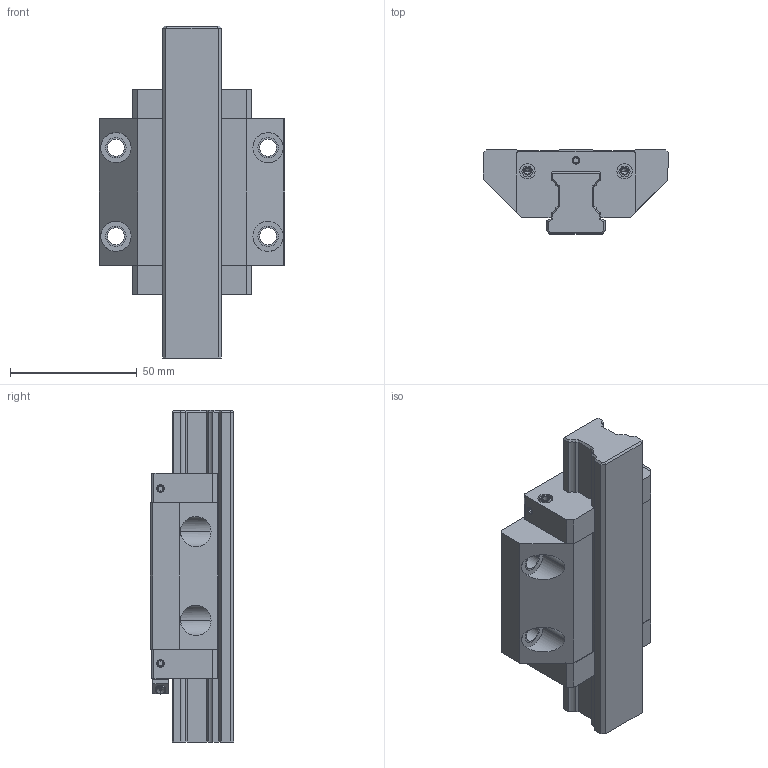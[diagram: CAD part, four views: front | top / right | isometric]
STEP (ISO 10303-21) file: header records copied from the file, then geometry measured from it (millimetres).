
FILE_DESCRIPTION((''),'2;1');
FILE_NAME('KWC_025_FNN_CS__ASM','2021-10-14T07:46:36',('ac91sw'),(''),'CREO PARAMETRIC BY PTC INC, 2020044','CREO PARAMETRIC BY PTC INC, 2020044','');
FILE_SCHEMA(('AUTOMOTIVE_DESIGN { 1 0 10303 214 1 1 1 1 }'));
Length unit declared in the file: millimetre
Products named in the file (7): KWC_025_FNN_CS__SKEL; R169320131; R169420002_Z; R343708901_Z; KWC_025_FNN_CS__PSF; R341700409_Z; KWC_025_FNN_CS__ASM
Assembly tree (11 placements, depth 2):
  KWC_025_FNN_CS__ASM
    KWC_025_FNN_CS__SKEL
    R169320131
    R169420002_Z  x2
    R343708901_Z  x5
    KWC_025_FNN_CS__PSF
    R341700409_Z
Bounding box: 73 x 33 x 131 mm (x, y, z)
Volume: 140192.5 mm3; surface area: 44991.3 mm2
Topology: 10 solids, 23 shells, 401 faces, 993 edges, 628 vertices
Faces by surface type: plane 221, cylinder 124, cone 56
Entity records: 14102 total; most frequent: CARTESIAN_POINT 1709, DIRECTION 1349, ORIENTED_EDGE 1238, PROPERTY_DEFINITION 818, REPRESENTATION 810, PROPERTY_DEFINITION_REPRESENTATION 810, DESCRIPTIVE_REPRESENTATION_ITEM 754, GENERAL_PROPERTY 749
